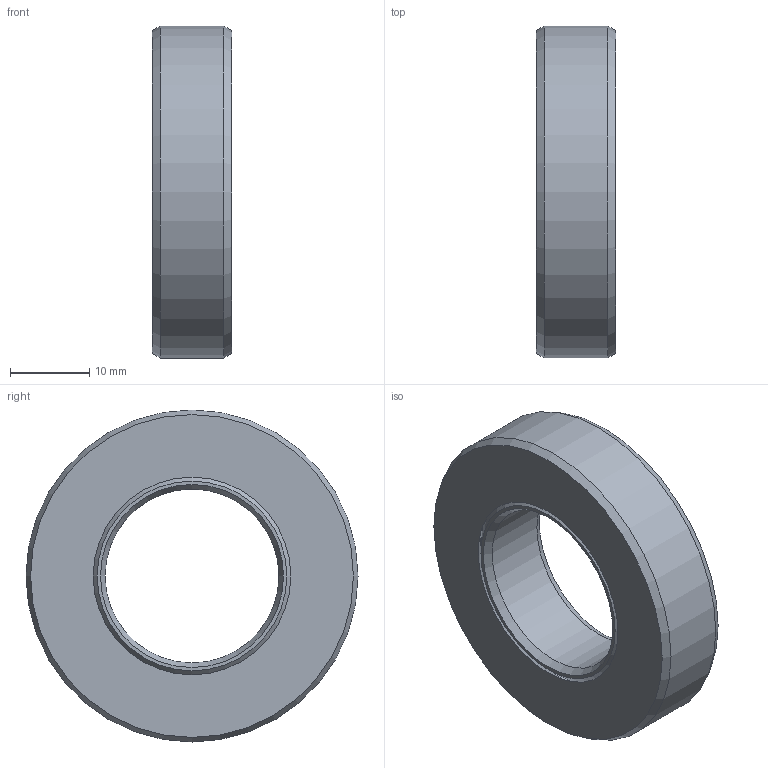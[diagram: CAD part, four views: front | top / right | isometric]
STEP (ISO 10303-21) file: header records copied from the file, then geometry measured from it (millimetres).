
FILE_DESCRIPTION(/* description */ (''),/* implementation_level */ '2;1');
FILE_NAME(/* name */ '301520 S22x42x10.stp',/* time_stamp */ '2016-12-16T13:28:28+01:00',/* author */ (''),/* organization */ (''),/* preprocessor_version */ 'ST-DEVELOPER v15',/* originating_system */ 'SIEMENS PLM Software NX 8.5',/* authorisation */ '');
FILE_SCHEMA (('CONFIG_CONTROL_DESIGN'));
Length unit declared in the file: millimetre
Products named in the file (1): ATE0000143_01
Bounding box: 10 x 42 x 42 mm (x, y, z)
Volume: 9475.3 mm3; surface area: 6012 mm2
Topology: 2 solids, 2 shells, 16 faces, 30 edges, 18 vertices
Faces by surface type: cone 10, plane 4, cylinder 2
Full cylindrical faces by diameter (mm): 22 x1, 42 x1
Entity records: 414 total; most frequent: DIRECTION 66, CARTESIAN_POINT 49, AXIS2_PLACEMENT_3D 33, FACE_BOUND 32, EDGE_LOOP 32, ORIENTED_EDGE 32, ADVANCED_FACE 16, VERTEX_POINT 16
